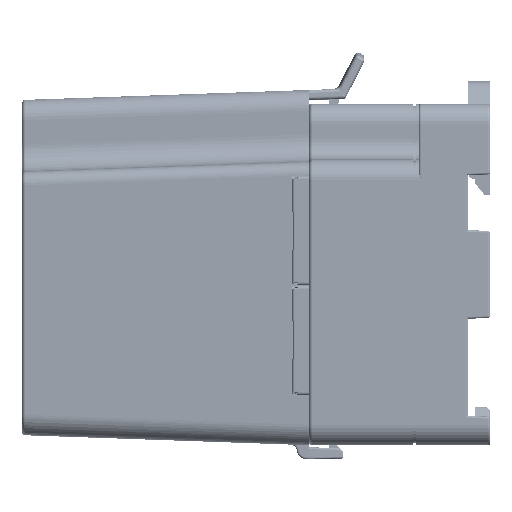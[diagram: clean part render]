
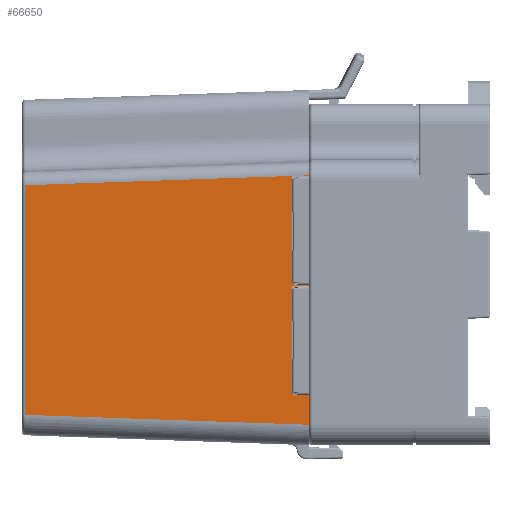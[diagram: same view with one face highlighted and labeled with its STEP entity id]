
A CAD part, left-side view. The second image highlights one B-rep face of the part: STEP entity #66650.
In plain terms, the highlighted planar face has unit normal (-0.999, 0.035, 0).
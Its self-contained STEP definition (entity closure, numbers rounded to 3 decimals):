
#60459=CARTESIAN_POINT('',(-63.8,7.6,
-22.002));
#60461=DIRECTION('',(0.,0.,1.));
#60462=VECTOR('',#60461,36.503);
#60463=CARTESIAN_POINT('',(-63.8,7.6,
-22.002));
#60464=LINE('',#60463,#60462);
#61860=CARTESIAN_POINT('',(-62.35,49.117,
13.051));
#61870=DIRECTION('',(0.,0.,1.));
#61871=VECTOR('',#61870,33.603);
#61872=CARTESIAN_POINT('',(-62.35,49.117,
-20.552));
#61873=LINE('',#61872,#61871);
#61874=DIRECTION('',(-0.035,-0.999,0.035));
#61875=VECTOR('',#61874,41.568);
#61876=CARTESIAN_POINT('',(-62.35,49.117,
13.051));
#61877=LINE('',#61876,#61875);
#61878=DIRECTION('',(0.035,0.999,0.035));
#61879=VECTOR('',#61878,41.568);
#61880=CARTESIAN_POINT('',(-63.8,7.6,
-22.002));
#61881=LINE('',#61880,#61879);
#64021=VERTEX_POINT('',#60459);
#64022=CARTESIAN_POINT('',(-63.8,7.6,
14.501));
#64023=VERTEX_POINT('',#64022);
#64349=VERTEX_POINT('',#61860);
#64350=CARTESIAN_POINT('',(-62.35,49.117,
-20.552));
#64351=VERTEX_POINT('',#64350);
#66637=CARTESIAN_POINT('',(-63.8,7.61,
-27.2));
#66638=DIRECTION('',(-0.999,0.035,0.));
#66639=DIRECTION('',(0.,0.,-1.));
#66640=AXIS2_PLACEMENT_3D('',#66637,#66638,#66639);
#66641=PLANE('',#66640);
#66643=ORIENTED_EDGE('',*,*,#66642,.T.);
#66644=ORIENTED_EDGE('',*,*,#66632,.T.);
#66645=ORIENTED_EDGE('',*,*,#64646,.F.);
#66647=ORIENTED_EDGE('',*,*,#66646,.T.);
#66648=EDGE_LOOP('',(#66643,#66644,#66645,#66647));
#66649=FACE_OUTER_BOUND('',#66648,.F.);
#66650=ADVANCED_FACE('',(#66649),#66641,.T.);
#64646=EDGE_CURVE('',#64021,#64023,#60464,.T.);
#66632=EDGE_CURVE('',#64349,#64023,#61877,.T.);
#66642=EDGE_CURVE('',#64351,#64349,#61873,.T.);
#66646=EDGE_CURVE('',#64021,#64351,#61881,.T.);
